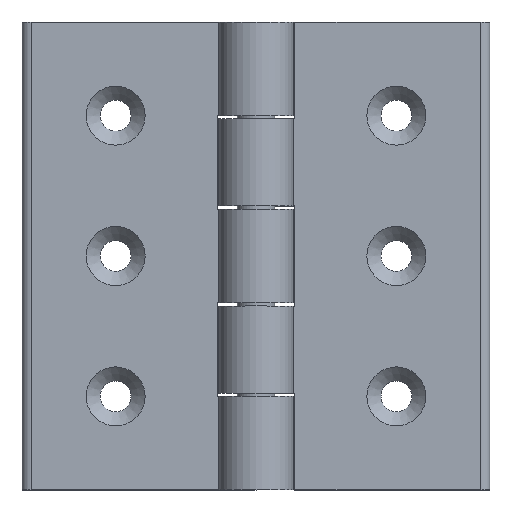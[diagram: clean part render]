
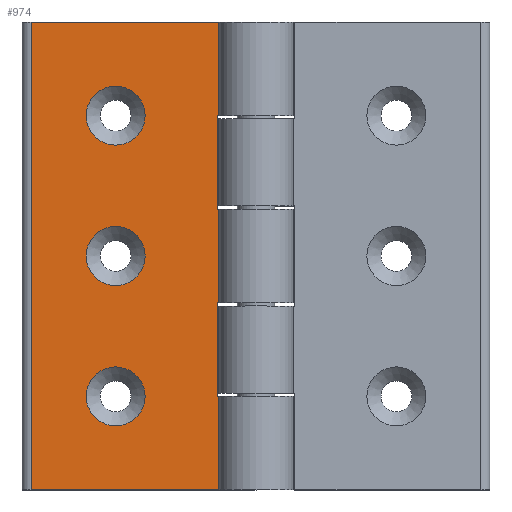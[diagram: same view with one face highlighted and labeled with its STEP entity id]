
A CAD part, top view. The second image highlights one B-rep face of the part: STEP entity #974.
In plain terms, the highlighted planar face has unit normal (0, 0, 1).
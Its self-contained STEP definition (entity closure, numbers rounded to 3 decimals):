
#104=LINE('',#1576,#183);
#105=LINE('',#1579,#184);
#106=LINE('',#1581,#185);
#107=LINE('',#1583,#186);
#108=LINE('',#1585,#187);
#109=LINE('',#1587,#188);
#110=LINE('',#1589,#189);
#111=LINE('',#1591,#190);
#112=LINE('',#1593,#191);
#113=LINE('',#1595,#192);
#114=LINE('',#1597,#193);
#115=LINE('',#1599,#194);
#183=VECTOR('',#1295,1000.);
#184=VECTOR('',#1296,1000.);
#185=VECTOR('',#1297,1000.);
#186=VECTOR('',#1298,1000.);
#187=VECTOR('',#1299,1000.);
#188=VECTOR('',#1300,1000.);
#189=VECTOR('',#1301,1000.);
#190=VECTOR('',#1302,1000.);
#191=VECTOR('',#1303,1000.);
#192=VECTOR('',#1304,1000.);
#193=VECTOR('',#1305,1000.);
#194=VECTOR('',#1306,1000.);
#343=ORIENTED_EDGE('',*,*,#529,.T.);
#344=ORIENTED_EDGE('',*,*,#530,.T.);
#345=ORIENTED_EDGE('',*,*,#531,.T.);
#346=ORIENTED_EDGE('',*,*,#532,.F.);
#347=ORIENTED_EDGE('',*,*,#533,.F.);
#348=ORIENTED_EDGE('',*,*,#534,.F.);
#349=ORIENTED_EDGE('',*,*,#535,.F.);
#350=ORIENTED_EDGE('',*,*,#536,.F.);
#351=ORIENTED_EDGE('',*,*,#537,.F.);
#352=ORIENTED_EDGE('',*,*,#538,.F.);
#353=ORIENTED_EDGE('',*,*,#539,.T.);
#354=ORIENTED_EDGE('',*,*,#540,.T.);
#355=ORIENTED_EDGE('',*,*,#541,.F.);
#356=ORIENTED_EDGE('',*,*,#542,.F.);
#357=ORIENTED_EDGE('',*,*,#543,.F.);
#529=EDGE_CURVE('',#637,#637,#705,.T.);
#530=EDGE_CURVE('',#638,#638,#706,.T.);
#531=EDGE_CURVE('',#639,#639,#707,.T.);
#532=EDGE_CURVE('',#640,#641,#104,.T.);
#533=EDGE_CURVE('',#642,#640,#105,.T.);
#534=EDGE_CURVE('',#643,#642,#106,.T.);
#535=EDGE_CURVE('',#644,#643,#107,.T.);
#536=EDGE_CURVE('',#645,#644,#108,.T.);
#537=EDGE_CURVE('',#646,#645,#109,.T.);
#538=EDGE_CURVE('',#647,#646,#110,.T.);
#539=EDGE_CURVE('',#647,#648,#111,.T.);
#540=EDGE_CURVE('',#648,#649,#112,.T.);
#541=EDGE_CURVE('',#650,#649,#113,.T.);
#542=EDGE_CURVE('',#651,#650,#114,.T.);
#543=EDGE_CURVE('',#641,#651,#115,.T.);
#637=VERTEX_POINT('',#1571);
#638=VERTEX_POINT('',#1573);
#639=VERTEX_POINT('',#1575);
#640=VERTEX_POINT('',#1577);
#641=VERTEX_POINT('',#1578);
#642=VERTEX_POINT('',#1580);
#643=VERTEX_POINT('',#1582);
#644=VERTEX_POINT('',#1584);
#645=VERTEX_POINT('',#1586);
#646=VERTEX_POINT('',#1588);
#647=VERTEX_POINT('',#1590);
#648=VERTEX_POINT('',#1592);
#649=VERTEX_POINT('',#1594);
#650=VERTEX_POINT('',#1596);
#651=VERTEX_POINT('',#1598);
#705=CIRCLE('',#1092,6.3);
#706=CIRCLE('',#1093,6.3);
#707=CIRCLE('',#1094,6.3);
#775=EDGE_LOOP('',(#343));
#776=EDGE_LOOP('',(#344));
#777=EDGE_LOOP('',(#345));
#778=EDGE_LOOP('',(#346,#347,#348,#349,#350,#351,#352,#353,#354,#355,#356,
#357));
#870=FACE_BOUND('',#775,.T.);
#871=FACE_BOUND('',#776,.T.);
#872=FACE_BOUND('',#777,.T.);
#873=FACE_BOUND('',#778,.T.);
#932=PLANE('',#1091);
#974=ADVANCED_FACE('',(#870,#871,#872,#873),#932,.F.);
#1091=AXIS2_PLACEMENT_3D('',#1569,#1287,#1288);
#1092=AXIS2_PLACEMENT_3D('',#1570,#1289,#1290);
#1093=AXIS2_PLACEMENT_3D('',#1572,#1291,#1292);
#1094=AXIS2_PLACEMENT_3D('',#1574,#1293,#1294);
#1287=DIRECTION('',(0.,0.,-1.));
#1288=DIRECTION('',(-1.,0.,0.));
#1289=DIRECTION('',(0.,0.,-1.));
#1290=DIRECTION('',(-1.,0.,0.));
#1291=DIRECTION('',(0.,0.,-1.));
#1292=DIRECTION('',(-1.,0.,0.));
#1293=DIRECTION('',(0.,0.,-1.));
#1294=DIRECTION('',(-1.,0.,0.));
#1295=DIRECTION('',(-1.,0.,0.));
#1296=DIRECTION('',(0.,-1.,0.));
#1297=DIRECTION('',(1.,0.,0.));
#1298=DIRECTION('',(0.,-1.,0.));
#1299=DIRECTION('',(-1.,0.,0.));
#1300=DIRECTION('',(0.,-1.,0.));
#1301=DIRECTION('',(1.,0.,0.));
#1302=DIRECTION('',(0.,-1.,0.));
#1303=DIRECTION('',(1.,0.,0.));
#1304=DIRECTION('',(0.,-1.,0.));
#1305=DIRECTION('',(1.,0.,0.));
#1306=DIRECTION('',(0.,-1.,0.));
#1569=CARTESIAN_POINT('',(-48.,50.,6.));
#1570=CARTESIAN_POINT('',(-30.,0.,6.));
#1571=CARTESIAN_POINT('',(-36.3,0.,6.));
#1572=CARTESIAN_POINT('',(-30.,-30.,6.));
#1573=CARTESIAN_POINT('',(-36.3,-30.,6.));
#1574=CARTESIAN_POINT('',(-30.,30.,6.));
#1575=CARTESIAN_POINT('',(-36.3,30.,6.));
#1576=CARTESIAN_POINT('',(-48.,-10.,6.));
#1577=CARTESIAN_POINT('',(-8.,-10.,6.));
#1578=CARTESIAN_POINT('',(-8.3,-10.,6.));
#1579=CARTESIAN_POINT('',(-8.,50.,6.));
#1580=CARTESIAN_POINT('',(-8.,10.,6.));
#1581=CARTESIAN_POINT('',(-48.,10.,6.));
#1582=CARTESIAN_POINT('',(-8.3,10.,6.));
#1583=CARTESIAN_POINT('',(-8.3,50.,6.));
#1584=CARTESIAN_POINT('',(-8.3,30.,6.));
#1585=CARTESIAN_POINT('',(-48.,30.,6.));
#1586=CARTESIAN_POINT('',(-8.,30.,6.));
#1587=CARTESIAN_POINT('',(-8.,50.,6.));
#1588=CARTESIAN_POINT('',(-8.,50.,6.));
#1589=CARTESIAN_POINT('',(-48.,50.,6.));
#1590=CARTESIAN_POINT('',(-48.,50.,6.));
#1591=CARTESIAN_POINT('',(-48.,50.,6.));
#1592=CARTESIAN_POINT('',(-48.,-50.,6.));
#1593=CARTESIAN_POINT('',(-48.,-50.,6.));
#1594=CARTESIAN_POINT('',(-8.,-50.,6.));
#1595=CARTESIAN_POINT('',(-8.,50.,6.));
#1596=CARTESIAN_POINT('',(-8.,-30.,6.));
#1597=CARTESIAN_POINT('',(-48.,-30.,6.));
#1598=CARTESIAN_POINT('',(-8.3,-30.,6.));
#1599=CARTESIAN_POINT('',(-8.3,50.,6.));
